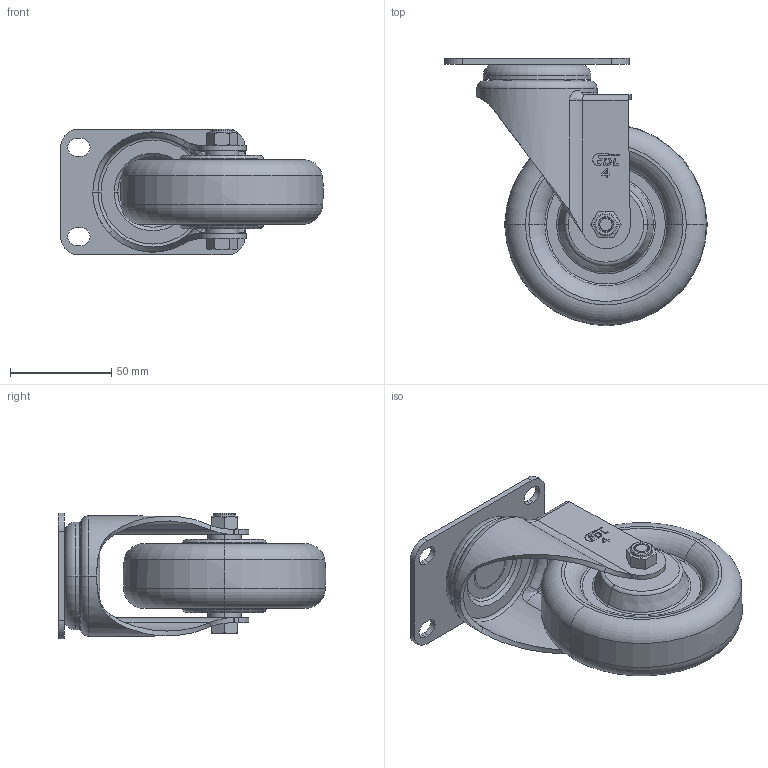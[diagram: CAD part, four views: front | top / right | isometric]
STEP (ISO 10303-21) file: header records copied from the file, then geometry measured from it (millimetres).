
FILE_DESCRIPTION((''),'2;1');
FILE_NAME('S54714_ASM','2021-08-10T',('lenovo'),(''),'PRO/ENGINEER BY PARAMETRIC TECHNOLOGY CORPORATION, 2010280','PRO/ENGINEER BY PARAMETRIC TECHNOLOGY CORPORATION, 2010280','');
FILE_SCHEMA(('CONFIG_CONTROL_DESIGN'));
Length unit declared in the file: millimetre
Products named in the file (6): S544-11; S540-01; 504-986; S540-33; S540-34; S54714_ASM
Assembly tree (5 placements, depth 2):
  S54714_ASM
    S544-11
    S540-01
    504-986
    S540-33
    S540-34
Bounding box: 129.48 x 131.98 x 62 mm (x, y, z)
Volume: 271798.7 mm3; surface area: 65451.6 mm2
Topology: 5 solids, 5 shells, 246 faces, 583 edges, 362 vertices
Faces by surface type: plane 106, cylinder 56, torus 38, cone 34, bspline 12
Entity records: 9032 total; most frequent: CARTESIAN_POINT 3156, DIRECTION 1241, ORIENTED_EDGE 1166, EDGE_CURVE 583, AXIS2_PLACEMENT_3D 471, VERTEX_POINT 362, VECTOR 299, LINE 299
